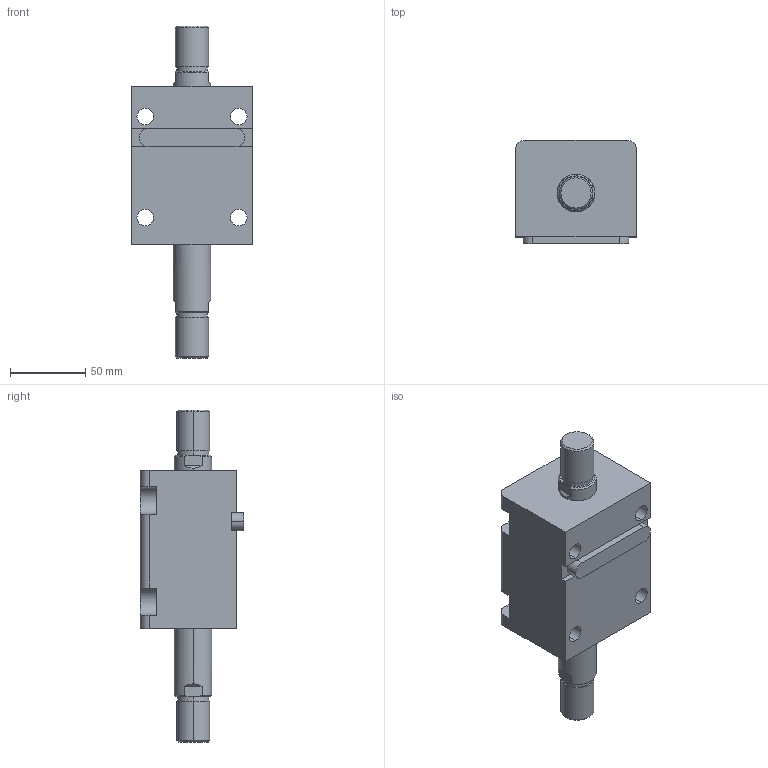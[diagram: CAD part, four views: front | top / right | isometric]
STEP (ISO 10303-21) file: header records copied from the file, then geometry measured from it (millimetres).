
FILE_DESCRIPTION (( 'STEP AP203' ), '1' );
FILE_NAME ('HTB-LW40-35W.STEP', '2019-10-09T07:55:10', ( '微软用户' ), ( '微软中国' ), 'SwSTEP 2.0', 'SolidWorks 2012', '' );
FILE_SCHEMA (( 'CONFIG_CONTROL_DESIGN' ));
Length unit declared in the file: millimetre
Products named in the file (4): HTB-LA40-瑩; HTB-LW40-35W活塞杆; HTB-LW40-35掛极; HTB-LW40-35W
Assembly tree (3 placements, depth 2):
  HTB-LW40-35W
    HTB-LW40-35掛极
    HTB-LW40-35W活塞杆
    HTB-LA40-瑩
Bounding box: 80 x 68.5 x 220 mm (x, y, z)
Volume: 526770.9 mm3; surface area: 83046.3 mm2
Topology: 3 solids, 3 shells, 113 faces, 273 edges, 178 vertices
Faces by surface type: plane 48, cylinder 45, cone 12, torus 8
Entity records: 3779 total; most frequent: CARTESIAN_POINT 622, DIRECTION 617, ORIENTED_EDGE 546, EDGE_CURVE 273, AXIS2_PLACEMENT_3D 241, VERTEX_POINT 178, EDGE_LOOP 135, VECTOR 135
